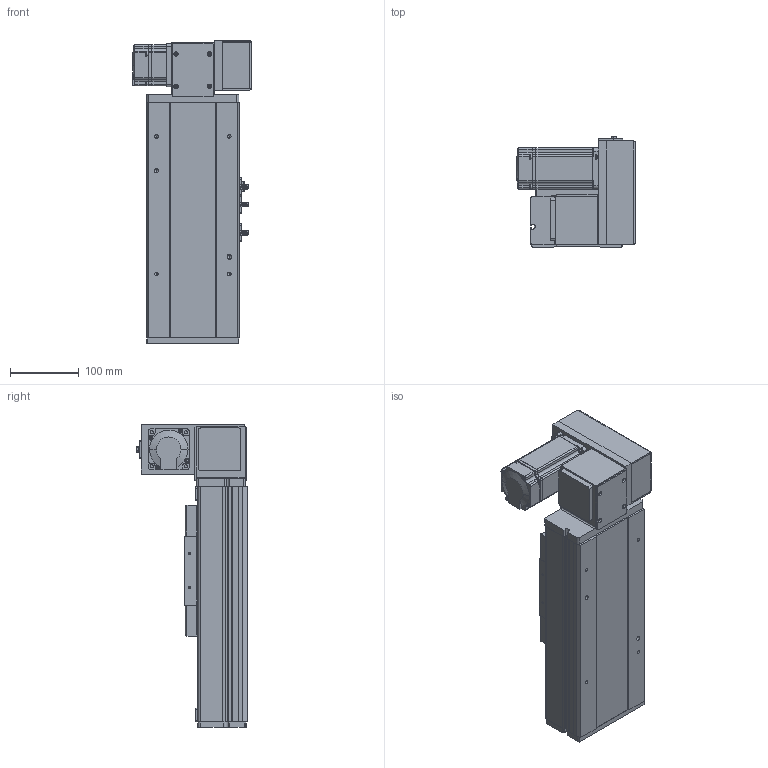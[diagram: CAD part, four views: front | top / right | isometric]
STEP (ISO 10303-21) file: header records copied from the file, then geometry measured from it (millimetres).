
FILE_DESCRIPTION (( 'STEP AP214' ), '1' );
FILE_NAME ('TPE14-L40-50-RU-T40-C4.STEP', '2023-04-13T06:39:58', ( '' ), ( '' ), 'SwSTEP 2.0', 'SolidWorks 2020', '' );
FILE_SCHEMA (( 'AUTOMOTIVE_DESIGN' ));
Length unit declared in the file: millimetre
Products named in the file (10): 葩璃 TPE14-L-002 耜裔ZTMZ-135-04^TPE14-L40-RU-T40-C4; 葩璃 TPE14 賑雄殤^TPE14-L40-RU-T40-C4; 葩璃 TPE14-L-007 々湍釱MZ-169x88^TPE14-L40-RU-T40-C4_YCB14; 葩璃 侂狟400W^TPE14-L40-RU-T40-C4; 葩璃 詩湍75^TPE14-L40-RU-T40-C4; 葩璃 pm-t65-672^TPE14-L40-RU-T40-C4; 葩璃 TPE14-L-001 菁釱MZ-135-01^TPE14-L40-RU-T40-C4; hexagon head bolts-full thread gb_GB_FASTENER_BOLT_STBAB A M5X16-N; 葩璃 TPT14-L-009 萇儂啣^TPE14-L40-RU-T40-C4_400W; TPE14-L40-50-RU-T40-C4
Assembly tree (12 placements, depth 2):
  TPE14-L40-50-RU-T40-C4
    葩璃 TPE14-L-001 菁釱MZ-135-01^TPE14-L40-RU-T40-C4
    葩璃 TPE14-L-002 耜裔ZTMZ-135-04^TPE14-L40-RU-T40-C4  x2
    葩璃 詩湍75^TPE14-L40-RU-T40-C4
    葩璃 TPE14-L-007 々湍釱MZ-169x88^TPE14-L40-RU-T40-C4_YCB14
    葩璃 TPT14-L-009 萇儂啣^TPE14-L40-RU-T40-C4_400W
    葩璃 TPE14 賑雄殤^TPE14-L40-RU-T40-C4
    葩璃 pm-t65-672^TPE14-L40-RU-T40-C4  x3
    葩璃 侂狟400W^TPE14-L40-RU-T40-C4
    hexagon head bolts-full thread gb_GB_FASTENER_BOLT_STBAB A M5X16-N
Bounding box: 172.5 x 160.85 x 440.5 mm (x, y, z)
Volume: 2706355.4 mm3; surface area: 629416.8 mm2
Topology: 23 solids, 23 shells, 1372 faces, 3567 edges, 2280 vertices
Faces by surface type: plane 823, cylinder 401, cone 114, bspline 34
Entity records: 36335 total; most frequent: CARTESIAN_POINT 7184, DIRECTION 5808, ORIENTED_EDGE 5666, EDGE_CURVE 2833, AXIS2_PLACEMENT_3D 1958, VECTOR 1892, LINE 1892, VERTEX_POINT 1828
